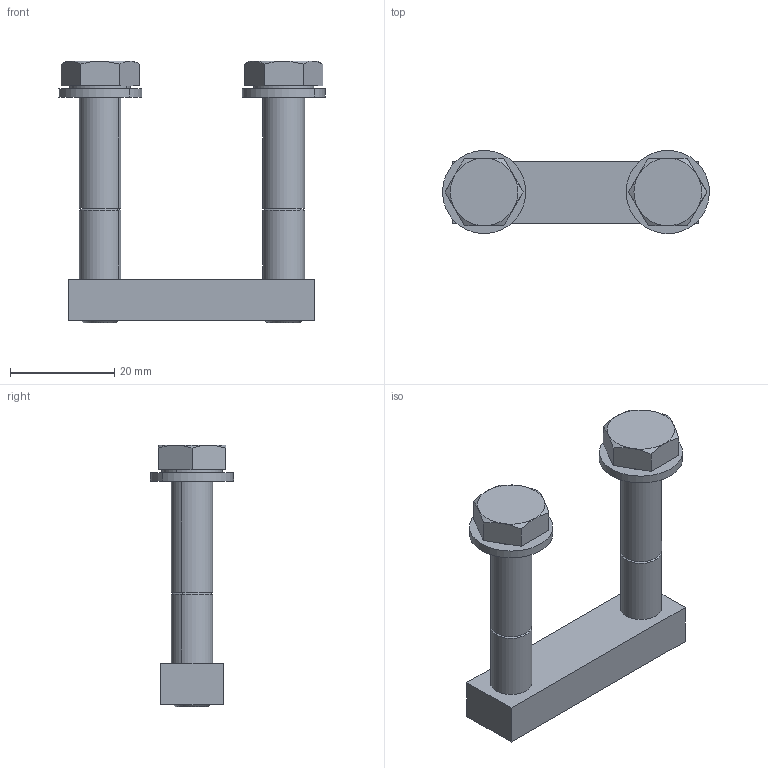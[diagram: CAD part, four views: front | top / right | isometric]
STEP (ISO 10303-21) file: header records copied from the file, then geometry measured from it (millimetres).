
FILE_DESCRIPTION((''),'2;1');
FILE_NAME('N:\Transfer\Berger Martin\Leybold\C15\83889.stp','2005-02-07T09:40:54',('VCRC_L'),(''),'Autodesk Inventor 9','Autodesk Inventor 9','');
FILE_SCHEMA(('AUTOMOTIVE_DESIGN { 1 0 10303 214 1 1 1 1 }'));
Length unit declared in the file: millimetre
Products named in the file (1): 83889
Bounding box: 51.26 x 15.99 x 50.3 mm (x, y, z)
Volume: 10208.2 mm3; surface area: 5443.2 mm2
Topology: 1 solids, 1 shells, 64 faces, 136 edges, 88 vertices
Faces by surface type: plane 32, cylinder 20, cone 12
Entity records: 1739 total; most frequent: CARTESIAN_POINT 321, DIRECTION 306, ORIENTED_EDGE 272, EDGE_CURVE 136, AXIS2_PLACEMENT_3D 121, VERTEX_POINT 88, EDGE_LOOP 78, VECTOR 64
